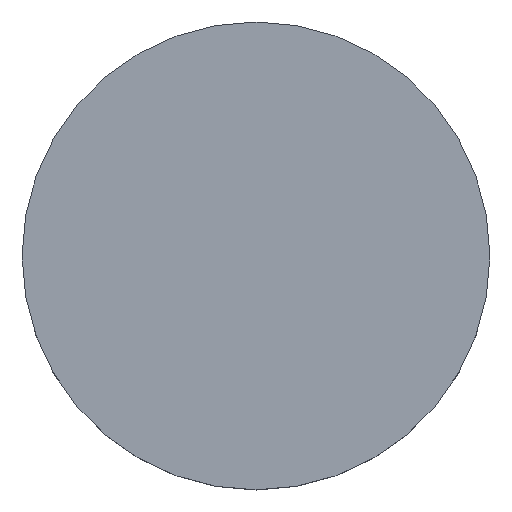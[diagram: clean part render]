
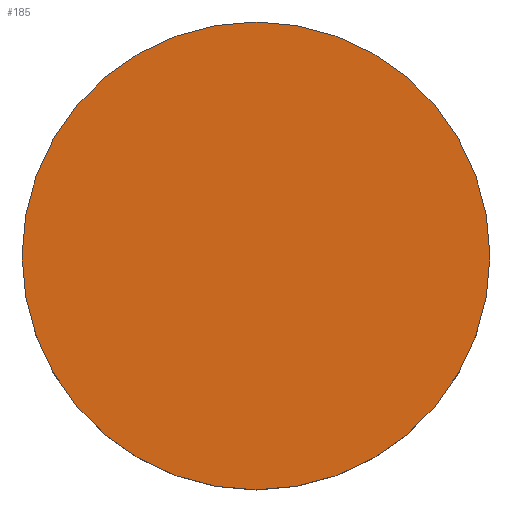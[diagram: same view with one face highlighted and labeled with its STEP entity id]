
A CAD part, top view. The second image highlights one B-rep face of the part: STEP entity #185.
In plain terms, the highlighted planar face has unit normal (0, 0, 1).
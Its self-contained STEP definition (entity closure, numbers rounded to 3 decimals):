
#185=ADVANCED_FACE('',(#233),#222,.T.);
#222=PLANE('',#622);
#233=FACE_OUTER_BOUND('',#261,.T.);
#261=EDGE_LOOP('',(#307,#308));
#307=ORIENTED_EDGE('',*,*,#497,.F.);
#308=ORIENTED_EDGE('',*,*,#498,.F.);
#451=VERTEX_POINT('',#907);
#452=VERTEX_POINT('',#908);
#497=EDGE_CURVE('',#451,#452,#569,.T.);
#498=EDGE_CURVE('',#452,#451,#570,.T.);
#569=CIRCLE('',#620,14.);
#570=CIRCLE('',#621,14.);
#620=AXIS2_PLACEMENT_3D('',#906,#709,#710);
#621=AXIS2_PLACEMENT_3D('',#909,#711,#712);
#622=AXIS2_PLACEMENT_3D('',#910,#713,#714);
#709=DIRECTION('',(0.,0.,-1.));
#710=DIRECTION('',(0.,1.,0.));
#711=DIRECTION('',(0.,0.,-1.));
#712=DIRECTION('',(0.,-1.,0.));
#713=DIRECTION('',(0.,0.,1.));
#714=DIRECTION('',(0.,-1.,0.));
#906=CARTESIAN_POINT('',(0.,0.,5.));
#907=CARTESIAN_POINT('',(14.,0.,5.));
#908=CARTESIAN_POINT('',(-14.,0.,5.));
#909=CARTESIAN_POINT('',(0.,0.,5.));
#910=CARTESIAN_POINT('',(0.,0.,5.));
